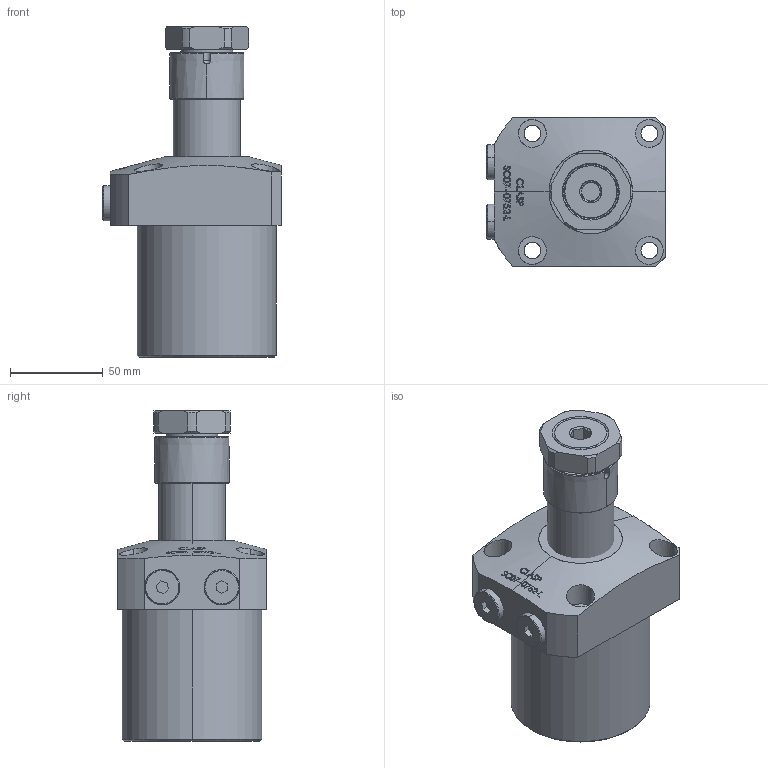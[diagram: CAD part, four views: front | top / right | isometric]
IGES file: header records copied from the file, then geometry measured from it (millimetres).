
Start section: SolidWorks IGES file using analytic representation for surfaces
Global section: file name: D:\karuppas\Clasp\3D model\SWING CYLINDER\Top Mounting swing cylinder\SC07-0752-L\SC07-0752-L.IGS; native system: SolidWorks 2017; preprocessor: SolidWorks 2017; author: pc; date: 220705.232440; units: millimetre
Bounding box: 96 x 80 x 178 mm (x, y, z)
Surface area: 71562.1 mm2 (no closed solid volume)
Topology: 0 solids, 0 shells, 358 faces, 6392 edges, 6391 vertices
Faces by surface type: bspline 247, revolution 111
